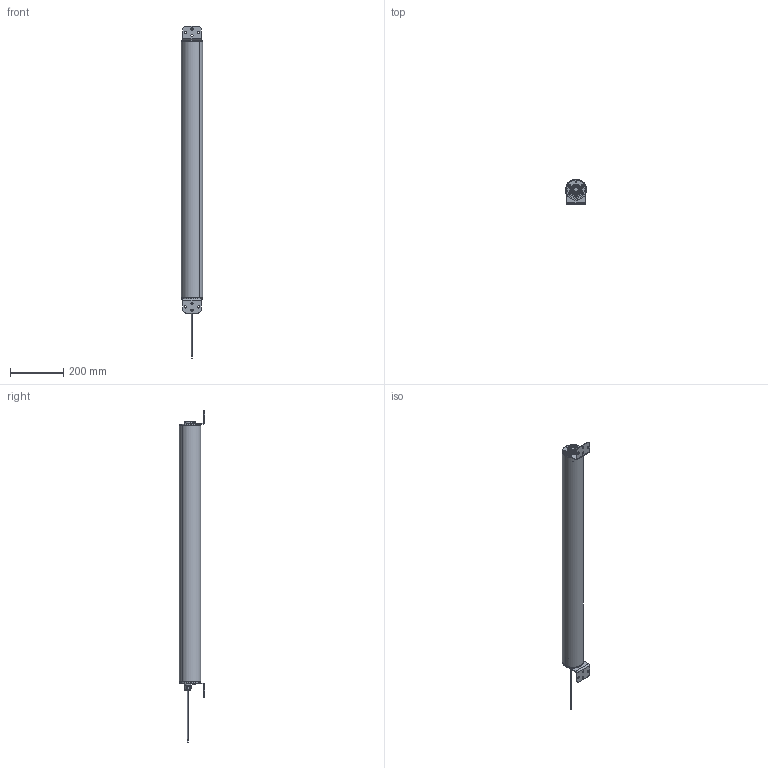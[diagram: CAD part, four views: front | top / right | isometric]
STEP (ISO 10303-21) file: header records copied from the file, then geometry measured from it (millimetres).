
FILE_DESCRIPTION (( 'STEP AP203' ), '1' );
FILE_NAME ('LB9x801.STEP', '2024-08-28T13:47:45', ( '' ), ( '' ), 'SwSTEP 2.0', 'SolidWorks 2021', '' );
FILE_SCHEMA (( 'CONFIG_CONTROL_DESIGN' ));
Length unit declared in the file: millimetre
Products named in the file (7): LB9x801; IP69K adjust model_875; Cable M12 femelle_1_2; 006266-C; 000039_M5x10_1_2; 000715_1_2; IP69K enclosure adjust_875
Assembly tree (10 placements, depth 2):
  LB9x801
    IP69K adjust model_875
    IP69K enclosure adjust_875
    000039_M5x10_1_2  x4
    000715_1_2
    Cable M12 femelle_1_2
    006266-C  x2
Bounding box: 80 x 95 x 1250.7 mm (x, y, z)
Volume: 2615756 mm3; surface area: 762562.5 mm2
Topology: 12 solids, 12 shells, 1217 faces, 3223 edges, 2097 vertices
Faces by surface type: plane 665, cylinder 366, bspline 116, cone 64, sphere 4, torus 2
Entity records: 40345 total; most frequent: CARTESIAN_POINT 12079, ORIENTED_EDGE 5902, DIRECTION 5516, EDGE_CURVE 2951, VERTEX_POINT 1932, AXIS2_PLACEMENT_3D 1861, LINE 1794, VECTOR 1794
